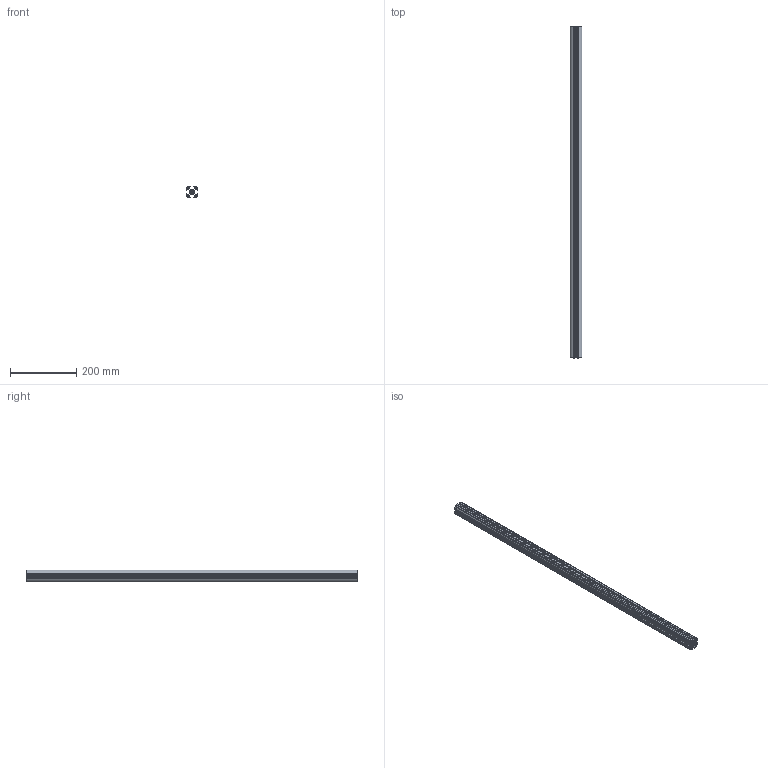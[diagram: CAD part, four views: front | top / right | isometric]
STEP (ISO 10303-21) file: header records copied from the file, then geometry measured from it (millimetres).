
FILE_DESCRIPTION (( 'STEP AP214' ), '1' );
FILE_NAME ('PEP3636-1000.STEP', '2022-12-12T03:40:48', ( '' ), ( '' ), 'SwSTEP 2.0', 'SolidWorks 2018', '' );
FILE_SCHEMA (( 'AUTOMOTIVE_DESIGN' ));
Length unit declared in the file: millimetre
Products named in the file (1): PEP3636-1000
Bounding box: 36 x 1000 x 36 mm (x, y, z)
Volume: 480138.2 mm3; surface area: 445148.8 mm2
Topology: 1 solids, 1 shells, 239 faces, 711 edges, 474 vertices
Faces by surface type: plane 122, cylinder 117
Entity records: 10762 total; most frequent: DIRECTION 1425, CARTESIAN_POINT 1425, ORIENTED_EDGE 1422, EDGE_CURVE 711, VECTOR 477, LINE 477, AXIS2_PLACEMENT_3D 474, VERTEX_POINT 474
